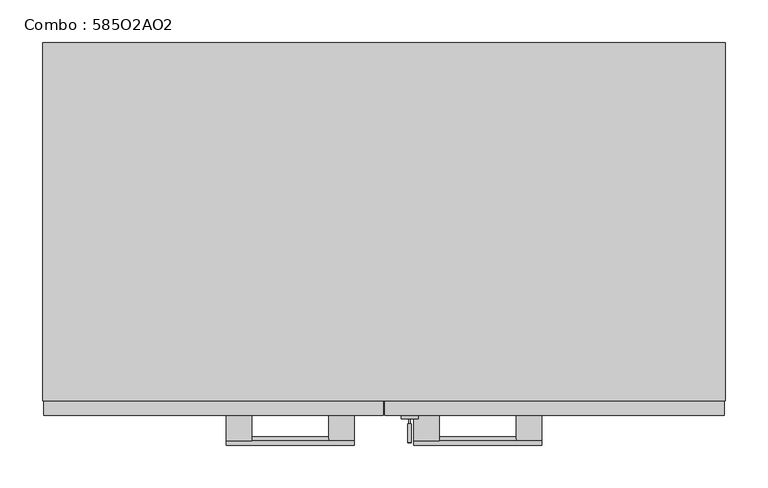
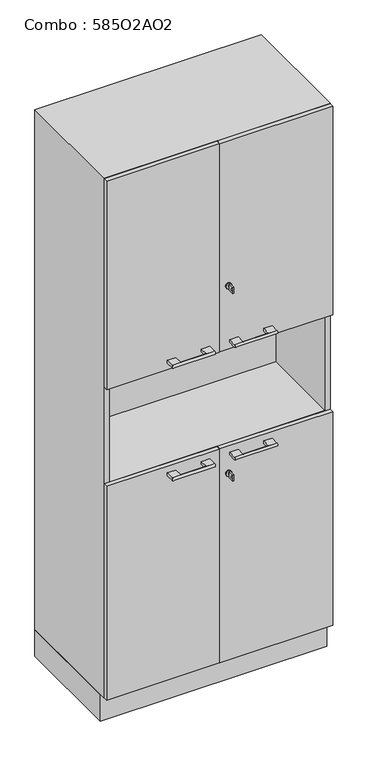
"""IFC4 building model written with IfcOpenShell, lengths in millimetres: furniture geometry, Combo : 585O2AO2."""

from ifc_helpers import new_model, si_unit, point, frame, frame_2d, origin, origin_with_axes, place, context, project, spatial, polyline, circle_curve, trimmed, segment, composite_curve, outline, extrude, faceted_brep, source, transform, mapped, element, save
from ifc_brep_helpers import plane_surface, cylinder_surface, advanced_brep


def combo_585o2ao2_e6e83b51(model_context):
    return source(origin(), model_context, "Body", "SolidModel", [
        extrude(outline(polyline([(-400.0, -400.0), (-400.0, 0.0), (400.0, 0.0), (400.0, -400.0), (-400.0, -400.0)])), origin_with_axes(), (0.0, 0.0, 1.0), 100.0),
        extrude(outline(composite_curve([segment(trimmed(circle_curve(frame_2d((1500.0, 30.0)), 10.0), [point((1500.0, 20.0))], [point((1500.0, 40.0))], False, "CARTESIAN"), True, "CONTINUOUS"), segment(trimmed(circle_curve(frame_2d((1500.0, 30.0)), 10.0), [point((1500.0, 40.0))], [point((1500.0, 20.0))], False, "CARTESIAN"), True, "CONTINUOUS")], self_intersect=False)), frame((0.0, -441.0, 0.0), z_axis=(0.0, 1.0, 0.0), x_axis=(0.0, 0.0, 1.0)), (0.0, 0.0, 1.0), 4.0),
        extrude(outline(polyline([(-469.0, 1510.985887), (-447.0, 1510.985887), (-447.0, 1489.0), (-469.0, 1489.0), (-469.0, 1510.985887)]), holes=[composite_curve([segment(trimmed(circle_curve(frame_2d((-462.75, 1499.9929435)), 3.2230706), [point((-462.75, 1496.7698729))], [point((-462.75, 1503.2160141))], True, "CARTESIAN"), True, "CONTINUOUS"), segment(trimmed(circle_curve(frame_2d((-462.75, 1499.9929435)), 3.2230706), [point((-462.75, 1503.2160141))], [point((-462.75, 1496.7698729))], True, "CARTESIAN"), True, "CONTINUOUS")], self_intersect=False)]), frame((28.0, 0.0, 0.0), z_axis=(1.0, 0.0, 0.0), x_axis=(0.0, 1.0, 0.0)), (0.0, 0.0, 1.0), 4.0416064),
        extrude(outline(polyline([(29.0, -447.0), (29.0, -441.0), (31.0416064, -441.0), (31.0416064, -447.0), (29.0, -447.0)])), frame((0.0, 0.0, 1496.0), z_axis=(0.0, 0.0, 1.0), x_axis=(1.0, 0.0, 0.0)), (0.0, 0.0, 1.0), 7.985887),
        advanced_brep(
        [(-185.0, -467.0, 1285.0), (-185.0, -467.0, 1295.0), (-185.0, -437.0, 1295.0), (-185.0, -437.0, 1285.0), (-155.0, -467.0, 1295.0), (-155.0, -467.0, 1285.0), (-155.0, -437.0, 1285.0), (-155.0, -437.0, 1295.0), (-35.0, -467.0, 1285.0), (-35.0, -437.0, 1285.0), (-35.0, -437.0, 1295.0), (-35.0, -467.0, 1295.0), (-65.0, -467.0, 1295.0), (-65.0, -467.0, 1285.0), (-65.0, -437.0, 1295.0), (-65.0, -437.0, 1285.0)],
        [
            (0, 1, circle_curve(frame((-185.0, -467.0, 1290.0), z_axis=(-1.0, 0.0, 0.0), x_axis=(0.0, 0.0, 1.0)), 5.0)),
            (1, 2),
            (2, 3),
            (3, 0),
            (4, 5, circle_curve(frame((-155.0, -467.0, 1290.0), z_axis=(-1.0, 0.0, 0.0), x_axis=(0.0, 0.0, 1.0)), 5.0)),
            (5, 6),
            (6, 7),
            (7, 4),
            (1, 4),
            (7, 2),
            (6, 3),
            (5, 0),
            (8, 9),
            (9, 10),
            (10, 11),
            (11, 8, circle_curve(frame((-35.0, -467.0, 1290.0), z_axis=(1.0, 0.0, 0.0), x_axis=(0.0, 0.0, 1.0)), 5.0)),
            (11, 12),
            (12, 4),
            (5, 13),
            (13, 8),
            (12, 13, circle_curve(frame((-65.0, -467.0, 1290.0), z_axis=(-1.0, 0.0, 0.0), x_axis=(0.0, 0.0, 1.0)), 5.0)),
            (12, 14),
            (14, 15),
            (15, 13),
            (10, 14),
            (9, 15),
        ],
        [
            plane_surface(frame((-185.0, -467.0, 1284.0), z_axis=(-1.0, 0.0, 0.0), x_axis=(0.0, 0.0, -1.0))),
            plane_surface(frame((-155.0, -467.0, 1284.0), z_axis=(1.0, 0.0, 0.0), x_axis=(0.0, 0.0, 1.0))),
            plane_surface(frame((-185.0, -437.0, 1295.0), z_axis=(0.0, 0.0, 1.0), x_axis=(1.0, 0.0, 0.0))),
            plane_surface(frame((-185.0, -437.0, 1285.0), z_axis=(0.0, 1.0, 0.0), x_axis=(1.0, 0.0, 0.0))),
            plane_surface(frame((-185.0, -467.0, 1285.0), z_axis=(0.0, 0.0, -1.0), x_axis=(1.0, 0.0, 0.0))),
            plane_surface(frame((-35.0, -467.0, 1295.0), z_axis=(1.0, 0.0, 0.0), x_axis=(0.0, 1.0, 0.0))),
            cylinder_surface(frame((-185.0, -467.0, 1290.0), z_axis=(1.0, 0.0, 0.0), x_axis=(0.0, 0.0, 1.0)), 5.0),
            plane_surface(frame((-65.0, -555.7415577, 1295.0), z_axis=(-1.0, 0.0, 0.0), x_axis=(0.0, -1.0, 0.0))),
            plane_surface(frame((-35.0, -467.0, 1295.0), z_axis=(0.0, 0.0, 1.0), x_axis=(-1.0, 0.0, 0.0))),
            plane_surface(frame((-35.0, -437.0, 1295.0), z_axis=(0.0, 1.0, 0.0), x_axis=(-1.0, 0.0, 0.0))),
            plane_surface(frame((-35.0, -437.0, 1285.0), z_axis=(0.0, 0.0, -1.0), x_axis=(-1.0, 0.0, 0.0))),
        ],
        [
            (0, [[1, 2, 3, 4]]),
            (1, [[5, 6, 7, 8]]),
            (2, [[9, -8, 10, -2]]),
            (3, [[-10, -7, 11, -3]]),
            (4, [[-11, -6, 12, -4]]),
            (5, [[13, 14, 15, 16]]),
            (6, [[17, 18, -9, -1, -12, 19, 20, -16]]),
            (6, [[-18, 21, -19, -5]]),
            (7, [[-21, 22, 23, 24]]),
            (8, [[25, -22, -17, -15]]),
            (9, [[26, -23, -25, -14]]),
            (10, [[-20, -24, -26, -13]]),
        ],
    ),
        advanced_brep(
        [(35.0, -467.0, 1285.0), (35.0, -467.0, 1295.0), (35.0, -437.0, 1295.0), (35.0, -437.0, 1285.0), (65.0, -467.0, 1295.0), (65.0, -467.0, 1285.0), (65.0, -437.0, 1285.0), (65.0, -437.0, 1295.0), (185.0, -467.0, 1285.0), (185.0, -437.0, 1285.0), (185.0, -437.0, 1295.0), (185.0, -467.0, 1295.0), (155.0, -467.0, 1295.0), (155.0, -467.0, 1285.0), (155.0, -437.0, 1295.0), (155.0, -437.0, 1285.0)],
        [
            (0, 1, circle_curve(frame((35.0, -467.0, 1290.0), z_axis=(-1.0, 0.0, 0.0), x_axis=(0.0, 0.0, 1.0)), 5.0)),
            (1, 2),
            (2, 3),
            (3, 0),
            (4, 5, circle_curve(frame((65.0, -467.0, 1290.0), z_axis=(-1.0, 0.0, 0.0), x_axis=(0.0, 0.0, 1.0)), 5.0)),
            (5, 6),
            (6, 7),
            (7, 4),
            (1, 4),
            (7, 2),
            (6, 3),
            (5, 0),
            (8, 9),
            (9, 10),
            (10, 11),
            (11, 8, circle_curve(frame((185.0, -467.0, 1290.0), z_axis=(1.0, 0.0, 0.0), x_axis=(0.0, 0.0, 1.0)), 5.0)),
            (11, 12),
            (12, 4),
            (5, 13),
            (13, 8),
            (12, 13, circle_curve(frame((155.0, -467.0, 1290.0), z_axis=(-1.0, 0.0, 0.0), x_axis=(0.0, 0.0, 1.0)), 5.0)),
            (12, 14),
            (14, 15),
            (15, 13),
            (10, 14),
            (9, 15),
        ],
        [
            plane_surface(frame((35.0, -467.0, 1284.0), z_axis=(-1.0, 0.0, 0.0), x_axis=(0.0, 0.0, -1.0))),
            plane_surface(frame((65.0, -467.0, 1284.0), z_axis=(1.0, 0.0, 0.0), x_axis=(0.0, 0.0, 1.0))),
            plane_surface(frame((35.0, -437.0, 1295.0), z_axis=(0.0, 0.0, 1.0), x_axis=(1.0, 0.0, 0.0))),
            plane_surface(frame((35.0, -437.0, 1285.0), z_axis=(0.0, 1.0, 0.0), x_axis=(1.0, 0.0, 0.0))),
            plane_surface(frame((35.0, -467.0, 1285.0), z_axis=(0.0, 0.0, -1.0), x_axis=(1.0, 0.0, 0.0))),
            plane_surface(frame((185.0, -467.0, 1295.0), z_axis=(1.0, 0.0, 0.0), x_axis=(0.0, 1.0, 0.0))),
            cylinder_surface(frame((35.0, -467.0, 1290.0), z_axis=(1.0, 0.0, 0.0), x_axis=(0.0, 0.0, 1.0)), 5.0),
            plane_surface(frame((155.0, -555.7415577, 1295.0), z_axis=(-1.0, 0.0, 0.0), x_axis=(0.0, -1.0, 0.0))),
            plane_surface(frame((185.0, -467.0, 1295.0), z_axis=(0.0, 0.0, 1.0), x_axis=(-1.0, 0.0, 0.0))),
            plane_surface(frame((185.0, -437.0, 1295.0), z_axis=(0.0, 1.0, 0.0), x_axis=(-1.0, 0.0, 0.0))),
            plane_surface(frame((185.0, -437.0, 1285.0), z_axis=(0.0, 0.0, -1.0), x_axis=(-1.0, 0.0, 0.0))),
        ],
        [
            (0, [[1, 2, 3, 4]]),
            (1, [[5, 6, 7, 8]]),
            (2, [[9, -8, 10, -2]]),
            (3, [[-10, -7, 11, -3]]),
            (4, [[-11, -6, 12, -4]]),
            (5, [[13, 14, 15, 16]]),
            (6, [[17, 18, -9, -1, -12, 19, 20, -16]]),
            (6, [[-18, 21, -19, -5]]),
            (7, [[-21, 22, 23, 24]]),
            (8, [[25, -22, -17, -15]]),
            (9, [[26, -23, -25, -14]]),
            (10, [[-20, -24, -26, -13]]),
        ],
    ),
        extrude(outline(composite_curve([segment(trimmed(circle_curve(frame_2d((800.0, 30.0)), 10.0), [point((800.0, 20.0))], [point((800.0, 40.0))], False, "CARTESIAN"), True, "CONTINUOUS"), segment(trimmed(circle_curve(frame_2d((800.0, 30.0)), 10.0), [point((800.0, 40.0))], [point((800.0, 20.0))], False, "CARTESIAN"), True, "CONTINUOUS")], self_intersect=False)), frame((0.0, -441.0, 0.0), z_axis=(0.0, 1.0, 0.0), x_axis=(0.0, 0.0, 1.0)), (0.0, 0.0, 1.0), 4.0),
        extrude(outline(polyline([(-469.0, 789.014113), (-469.0, 811.0), (-447.0, 811.0), (-447.0, 789.014113), (-469.0, 789.014113)]), holes=[composite_curve([segment(trimmed(circle_curve(frame_2d((-462.75, 800.0070565)), 3.2230706), [point((-462.75, 803.2301271))], [point((-462.75, 796.7839859))], True, "CARTESIAN"), True, "CONTINUOUS"), segment(trimmed(circle_curve(frame_2d((-462.75, 800.0070565)), 3.2230706), [point((-462.75, 796.7839859))], [point((-462.75, 803.2301271))], True, "CARTESIAN"), True, "CONTINUOUS")], self_intersect=False)]), frame((28.0, 0.0, 0.0), z_axis=(1.0, 0.0, 0.0), x_axis=(0.0, 1.0, 0.0)), (0.0, 0.0, 1.0), 4.0416064),
        extrude(outline(polyline([(31.0416064, -447.0), (29.0, -447.0), (29.0, -441.0), (31.0416064, -441.0), (31.0416064, -447.0)])), frame((0.0, 0.0, 796.014113), z_axis=(0.0, 0.0, 1.0), x_axis=(1.0, 0.0, 0.0)), (0.0, 0.0, 1.0), 7.985887),
        advanced_brep(
        [(-185.0, -467.0, 875.0), (-185.0, -437.0, 875.0), (-185.0, -437.0, 865.0), (-185.0, -467.0, 865.0), (-155.0, -467.0, 865.0), (-155.0, -437.0, 865.0), (-155.0, -437.0, 875.0), (-155.0, -467.0, 875.0), (-35.0, -467.0, 875.0), (-35.0, -467.0, 865.0), (-35.0, -437.0, 865.0), (-35.0, -437.0, 875.0), (-65.0, -467.0, 875.0), (-65.0, -467.0, 865.0), (-65.0, -437.0, 875.0), (-65.0, -437.0, 865.0)],
        [
            (0, 1),
            (1, 2),
            (2, 3),
            (3, 0, circle_curve(frame((-185.0, -467.0, 870.0), z_axis=(-1.0, 0.0, 0.0), x_axis=(0.0, 0.0, -1.0)), 5.0)),
            (4, 5),
            (5, 6),
            (6, 7),
            (7, 4, circle_curve(frame((-155.0, -467.0, 870.0), z_axis=(-1.0, 0.0, 0.0), x_axis=(0.0, 0.0, -1.0)), 5.0)),
            (2, 5),
            (4, 3),
            (1, 6),
            (0, 7),
            (8, 9, circle_curve(frame((-35.0, -467.0, 870.0), z_axis=(1.0, 0.0, 0.0), x_axis=(0.0, 0.0, -1.0)), 5.0)),
            (9, 10),
            (10, 11),
            (11, 8),
            (8, 12),
            (12, 7),
            (4, 13),
            (13, 9),
            (12, 13, circle_curve(frame((-65.0, -467.0, 870.0), z_axis=(-1.0, 0.0, 0.0), x_axis=(0.0, 0.0, -1.0)), 5.0)),
            (12, 14),
            (14, 15),
            (15, 13),
            (15, 10),
            (14, 11),
        ],
        [
            plane_surface(frame((-185.0, -467.0, 876.0), z_axis=(-1.0, 0.0, 0.0), x_axis=(0.0, 0.0, 1.0))),
            plane_surface(frame((-155.0, -467.0, 876.0), z_axis=(1.0, 0.0, 0.0), x_axis=(0.0, 0.0, -1.0))),
            plane_surface(frame((-185.0, -437.0, 865.0), z_axis=(0.0, 0.0, -1.0), x_axis=(1.0, 0.0, 0.0))),
            plane_surface(frame((-185.0, -437.0, 875.0), z_axis=(0.0, 1.0, 0.0), x_axis=(1.0, 0.0, 0.0))),
            plane_surface(frame((-185.0, -467.0, 875.0), z_axis=(0.0, 0.0, 1.0), x_axis=(1.0, 0.0, 0.0))),
            plane_surface(frame((-35.0, -467.0, 865.0), z_axis=(1.0, 0.0, 0.0), x_axis=(0.0, 1.0, 0.0))),
            cylinder_surface(frame((-185.0, -467.0, 870.0), z_axis=(1.0, 0.0, 0.0), x_axis=(0.0, 0.0, -1.0)), 5.0),
            plane_surface(frame((-65.0, -555.7415577, 865.0), z_axis=(-1.0, 0.0, 0.0), x_axis=(0.0, -1.0, 0.0))),
            plane_surface(frame((-35.0, -467.0, 865.0), z_axis=(0.0, 0.0, -1.0), x_axis=(-1.0, 0.0, 0.0))),
            plane_surface(frame((-35.0, -437.0, 865.0), z_axis=(0.0, 1.0, 0.0), x_axis=(-1.0, 0.0, 0.0))),
            plane_surface(frame((-35.0, -437.0, 875.0), z_axis=(0.0, 0.0, 1.0), x_axis=(-1.0, 0.0, 0.0))),
        ],
        [
            (0, [[1, 2, 3, 4]]),
            (1, [[5, 6, 7, 8]]),
            (2, [[-3, 9, -5, 10]]),
            (3, [[-2, 11, -6, -9]]),
            (4, [[-1, 12, -7, -11]]),
            (5, [[13, 14, 15, 16]]),
            (6, [[-13, 17, 18, -12, -4, -10, 19, 20]]),
            (6, [[-8, -18, 21, -19]]),
            (7, [[22, 23, 24, -21]]),
            (8, [[-14, -20, -24, 25]]),
            (9, [[-15, -25, -23, 26]]),
            (10, [[-16, -26, -22, -17]]),
        ],
    ),
        advanced_brep(
        [(35.0, -467.0, 875.0), (35.0, -437.0, 875.0), (35.0, -437.0, 865.0), (35.0, -467.0, 865.0), (65.0, -467.0, 865.0), (65.0, -437.0, 865.0), (65.0, -437.0, 875.0), (65.0, -467.0, 875.0), (185.0, -467.0, 875.0), (185.0, -467.0, 865.0), (185.0, -437.0, 865.0), (185.0, -437.0, 875.0), (155.0, -467.0, 875.0), (155.0, -467.0, 865.0), (155.0, -437.0, 875.0), (155.0, -437.0, 865.0)],
        [
            (0, 1),
            (1, 2),
            (2, 3),
            (3, 0, circle_curve(frame((35.0, -467.0, 870.0), z_axis=(-1.0, 0.0, 0.0), x_axis=(0.0, 0.0, -1.0)), 5.0)),
            (4, 5),
            (5, 6),
            (6, 7),
            (7, 4, circle_curve(frame((65.0, -467.0, 870.0), z_axis=(-1.0, 0.0, 0.0), x_axis=(0.0, 0.0, -1.0)), 5.0)),
            (2, 5),
            (4, 3),
            (1, 6),
            (0, 7),
            (8, 9, circle_curve(frame((185.0, -467.0, 870.0), z_axis=(1.0, 0.0, 0.0), x_axis=(0.0, 0.0, -1.0)), 5.0)),
            (9, 10),
            (10, 11),
            (11, 8),
            (8, 12),
            (12, 7),
            (4, 13),
            (13, 9),
            (12, 13, circle_curve(frame((155.0, -467.0, 870.0), z_axis=(-1.0, 0.0, 0.0), x_axis=(0.0, 0.0, -1.0)), 5.0)),
            (12, 14),
            (14, 15),
            (15, 13),
            (15, 10),
            (14, 11),
        ],
        [
            plane_surface(frame((35.0, -467.0, 876.0), z_axis=(-1.0, 0.0, 0.0), x_axis=(0.0, 0.0, 1.0))),
            plane_surface(frame((65.0, -467.0, 876.0), z_axis=(1.0, 0.0, 0.0), x_axis=(0.0, 0.0, -1.0))),
            plane_surface(frame((35.0, -437.0, 865.0), z_axis=(0.0, 0.0, -1.0), x_axis=(1.0, 0.0, 0.0))),
            plane_surface(frame((35.0, -437.0, 875.0), z_axis=(0.0, 1.0, 0.0), x_axis=(1.0, 0.0, 0.0))),
            plane_surface(frame((35.0, -467.0, 875.0), z_axis=(0.0, 0.0, 1.0), x_axis=(1.0, 0.0, 0.0))),
            plane_surface(frame((185.0, -467.0, 865.0), z_axis=(1.0, 0.0, 0.0), x_axis=(0.0, 1.0, 0.0))),
            cylinder_surface(frame((35.0, -467.0, 870.0), z_axis=(1.0, 0.0, 0.0), x_axis=(0.0, 0.0, -1.0)), 5.0),
            plane_surface(frame((155.0, -555.7415577, 865.0), z_axis=(-1.0, 0.0, 0.0), x_axis=(0.0, -1.0, 0.0))),
            plane_surface(frame((185.0, -467.0, 865.0), z_axis=(0.0, 0.0, -1.0), x_axis=(-1.0, 0.0, 0.0))),
            plane_surface(frame((185.0, -437.0, 865.0), z_axis=(0.0, 1.0, 0.0), x_axis=(-1.0, 0.0, 0.0))),
            plane_surface(frame((185.0, -437.0, 875.0), z_axis=(0.0, 0.0, 1.0), x_axis=(-1.0, 0.0, 0.0))),
        ],
        [
            (0, [[1, 2, 3, 4]]),
            (1, [[5, 6, 7, 8]]),
            (2, [[-3, 9, -5, 10]]),
            (3, [[-2, 11, -6, -9]]),
            (4, [[-1, 12, -7, -11]]),
            (5, [[13, 14, 15, 16]]),
            (6, [[-13, 17, 18, -12, -4, -10, 19, 20]]),
            (6, [[-8, -18, 21, -19]]),
            (7, [[22, 23, 24, -21]]),
            (8, [[-14, -20, -24, 25]]),
            (9, [[-15, -25, -23, 26]]),
            (10, [[-16, -26, -22, -17]]),
        ],
    ),
        extrude(outline(polyline([(-1.0, -437.0), (-399.0, -437.0), (-399.0, -421.0), (-1.0, -421.0), (-1.0, -437.0)])), frame((0.0, 0.0, 1261.0), z_axis=(0.0, 0.0, 1.0), x_axis=(1.0, 0.0, 0.0)), (0.0, 0.0, 1.0), 778.0),
        extrude(outline(polyline([(399.0, -437.0), (1.0, -437.0), (1.0, -421.0), (399.0, -421.0), (399.0, -437.0)])), frame((0.0, 0.0, 1261.0), z_axis=(0.0, 0.0, 1.0), x_axis=(1.0, 0.0, 0.0)), (0.0, 0.0, 1.0), 778.0),
        extrude(outline(polyline([(-1.0, -437.0), (-399.0, -437.0), (-399.0, -421.0), (-1.0, -421.0), (-1.0, -437.0)])), frame((0.0, 0.0, 101.0), z_axis=(0.0, 0.0, 1.0), x_axis=(1.0, 0.0, 0.0)), (0.0, 0.0, 1.0), 798.0),
        extrude(outline(polyline([(399.0, -437.0), (1.0, -437.0), (1.0, -421.0), (399.0, -421.0), (399.0, -437.0)])), frame((0.0, 0.0, 101.0), z_axis=(0.0, 0.0, 1.0), x_axis=(1.0, 0.0, 0.0)), (0.0, 0.0, 1.0), 798.0),
        faceted_brep([(400.0, 0.0, 2040.0), (-400.0, 0.0, 2040.0), (-400.0, -420.0, 2040.0), (400.0, -420.0, 2040.0), (-400.0, 0.0, 100.0), (400.0, 0.0, 100.0), (400.0, -420.0, 100.0), (-400.0, -420.0, 100.0), (381.0, -420.0, 1260.0), (381.0, -420.0, 900.0), (-379.0, -420.0, 900.0), (-379.0, -420.0, 1260.0), (381.0, -120.0, 900.0), (381.0, -120.0, 1260.0), (-379.0, -120.0, 1260.0), (-379.0, -120.0, 900.0)], [[[0, 1, 2, 3]], [[4, 5, 6, 7]], [[1, 0, 5, 4]], [[2, 1, 4, 7]], [[3, 2, 7, 6], [8, 9, 10, 11]], [[0, 3, 6, 5]], [[12, 13, 14, 15]], [[13, 12, 9, 8]], [[14, 13, 8, 11]], [[15, 14, 11, 10]], [[12, 15, 10, 9]]]),
    ])


if __name__ == "__main__":
    model = new_model("IFC4")
    model_context = context("Model", 3, world=origin())
    ifc_project = project(units=[si_unit("LENGTHUNIT", "METRE", prefix="MILLI")], contexts=[model_context])
    site = spatial("IfcSite", under=ifc_project)
    building = spatial("IfcBuilding", under=site)
    placement = place(None, origin())
    combo_585o2ao2_shape = combo_585o2ao2_e6e83b51(model_context)
    element("IfcFurniture", 1, ObjectType="Combo : 585O2AO2", at=placement, inside=building, context=model_context, shape_type="MappedRepresentation", body=[
        mapped(combo_585o2ao2_shape, transform((0.0, 0.0, 0.0), x_axis=(1.0, 0.0, 0.0), y_axis=(0.0, 1.0, 0.0), z_axis=(0.0, 0.0, 1.0))),
    ])
    save(model, "model.ifc")
